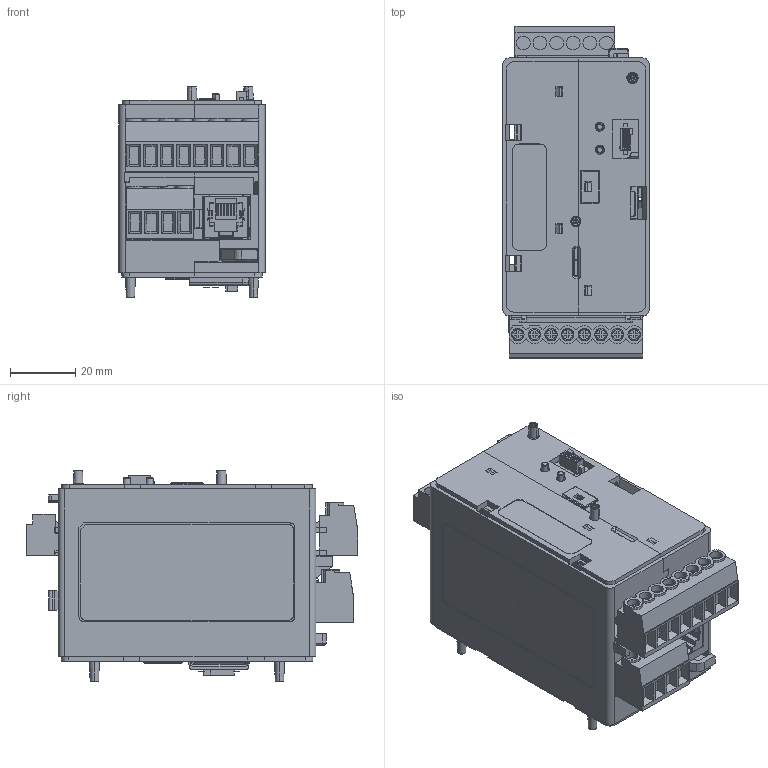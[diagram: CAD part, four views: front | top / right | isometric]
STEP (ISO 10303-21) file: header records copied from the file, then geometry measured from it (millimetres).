
FILE_DESCRIPTION((''),'2;1');
FILE_NAME('10006064184','2022-01-25T15:57:21',('SGowda1'),('Rockwell Automation'),'CREO PARAMETRIC BY PTC INC, 2020281','CREO PARAMETRIC BY PTC INC, 2020281','');
FILE_SCHEMA(('CONFIG_CONTROL_DESIGN'));
Products named in the file (1): 10006064184
Bounding box: 44.8 x 101.41 x 64.5 mm (x, y, z)
Surface area: 62822.2 mm2 (no closed solid volume)
Topology: 0 solids, 279 shells, 2118 faces, 10357 edges, 8333 vertices
Faces by surface type: plane 1305, cylinder 514, torus 156, bspline 81, cone 62
Entity records: 112496 total; most frequent: CARTESIAN_POINT 35169, DIRECTION 14165, ORIENTED_EDGE 14094, EDGE_CURVE 10355, VERTEX_POINT 8333, VECTOR 7479, LINE 7479, AXIS2_PLACEMENT_3D 3343
